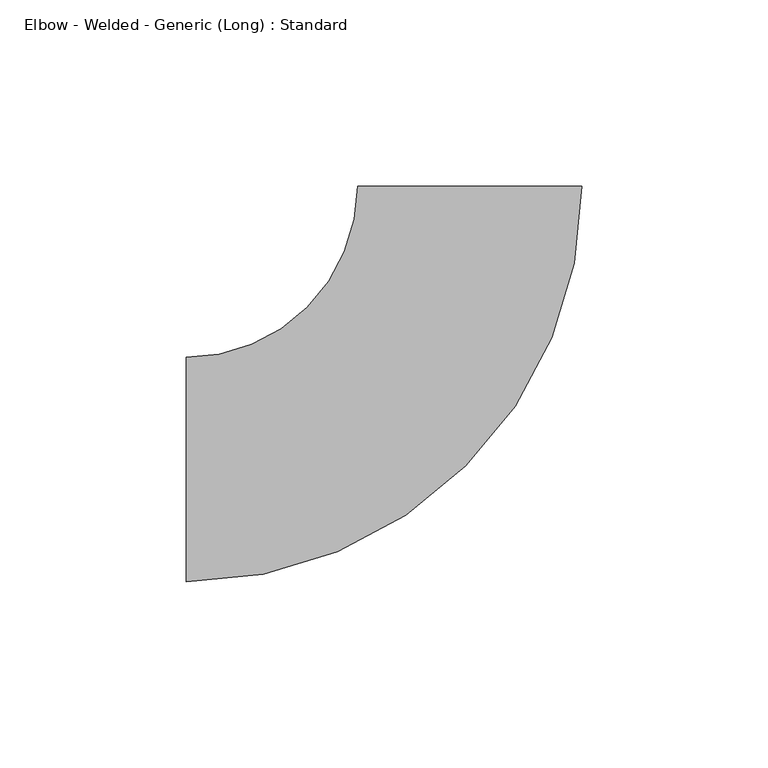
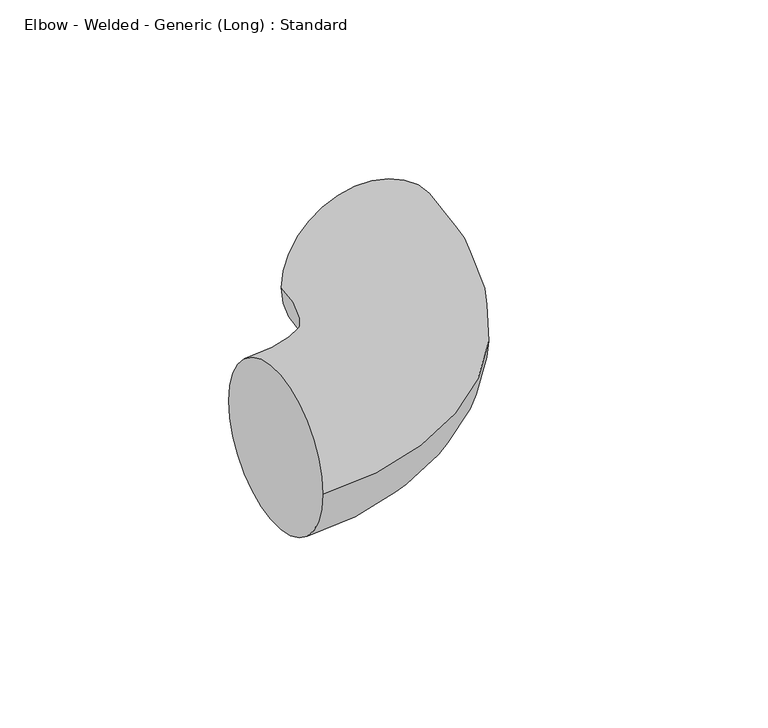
"""IFC4 building model written with IfcOpenShell, lengths in millimetres: pipe fitting geometry, Elbow - Welded - Generic (Long) : Standard."""

from ifc_helpers import new_model, si_unit, point, frame, origin, place, context, project, spatial, circle_curve, ellipse_curve, trimmed, source, transform, mapped, element, save
from ifc_brep_helpers import plane_surface, revolved_surface, advanced_brep


def elbow_welded_generic_long_standard_e2f7402a(model_context):
    return source(origin(), model_context, "Body", "AdvancedBrep", [
        advanced_brep(
        [(-76.2, -30.1625, 0.0), (-76.2, 30.1625, 0.0), (30.2383681, 76.1699252, 0.0), (-30.086602, 76.2299993, 0.0)],
        [
            (0, 1, circle_curve(frame((-76.2, 0.0, 0.0), z_axis=(-1.0, 0.0, 0.0), x_axis=(0.0, 1.0, 0.0)), 30.1625)),
            (1, 0, circle_curve(frame((-76.2, 0.0, 0.0), z_axis=(-1.0, 0.0, 0.0), x_axis=(0.0, 1.0, 0.0)), 30.1625)),
            (2, 3, circle_curve(frame((0.0758831, 76.1999622, 0.0), z_axis=(0.0009958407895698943, 0.9999995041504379, 0.0), x_axis=(-0.9999995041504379, 0.0009958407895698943, 0.0)), 30.1625)),
            (3, 2, circle_curve(frame((0.0758831, 76.1999622, 0.0), z_axis=(0.0009958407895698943, 0.9999995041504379, 0.0), x_axis=(-0.9999995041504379, 0.0009958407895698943, 0.0)), 30.1625)),
            (3, 1, circle_curve(frame((-76.2, 76.2759209, 0.0), z_axis=(0.0, 0.0, -1.0), x_axis=(0.0, -1.0, 0.0)), 46.1134209)),
            (0, 2, circle_curve(frame((-76.2, 76.2759209, 0.0), z_axis=(0.0, 0.0, 1.0), x_axis=(0.0, -1.0, 0.0)), 106.4384209)),
        ],
        [
            plane_surface(frame((-76.2, 0.0, 0.0), z_axis=(-1.0, 0.0, 0.0), x_axis=(0.0, 0.0, 1.0))),
            plane_surface(frame((0.0758831, 76.1999622, 0.0), z_axis=(0.0009958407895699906, 0.999999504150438, 0.0), x_axis=(0.0, 0.0, 1.0))),
            revolved_surface(trimmed(ellipse_curve(frame((-76.2, 0.0, 0.0), z_axis=(-1.0, 0.0, 0.0), x_axis=(0.0, 1.0, 0.0)), 30.1625, 30.1625), [point((-76.2, -30.1625, 0.0))], [point((-76.2, 30.1625, 0.0))], True, "CARTESIAN"), (-76.2, 76.2759209, 0.0), (0.0, 0.0, 1.0)),
            revolved_surface(trimmed(ellipse_curve(frame((-76.2, 0.0, 0.0), z_axis=(-1.0, 0.0, 0.0), x_axis=(0.0, 1.0, 0.0)), 30.1625, 30.1625), [point((-76.2, 30.1625, 0.0))], [point((-76.2, -30.1625, 0.0))], True, "CARTESIAN"), (-76.2, 76.2759209, 0.0), (0.0, 0.0, 1.0)),
        ],
        [
            (0, [[1, 2]]),
            (1, [[3, 4]]),
            (2, [[5, -1, 6, -4]]),
            (3, [[-6, -2, -5, -3]]),
        ],
    ),
    ])


if __name__ == "__main__":
    model = new_model("IFC4")
    model_context = context("Model", 3, world=origin())
    ifc_project = project(units=[si_unit("LENGTHUNIT", "METRE", prefix="MILLI")], contexts=[model_context])
    site = spatial("IfcSite", under=ifc_project)
    building = spatial("IfcBuilding", under=site)
    placement = place(None, origin())
    elbow_welded_generic_long_standard_shape = elbow_welded_generic_long_standard_e2f7402a(model_context)
    element("IfcPipeFitting", 1, ObjectType="Elbow - Welded - Generic (Long) : Standard", at=placement, inside=building, context=model_context, shape_type="MappedRepresentation", body=[
        mapped(elbow_welded_generic_long_standard_shape, transform((0.0, 0.0, 0.0), x_axis=(1.0, 0.0, 0.0), y_axis=(0.0, 1.0, 0.0), z_axis=(0.0, 0.0, 1.0))),
    ])
    save(model, "model.ifc")
